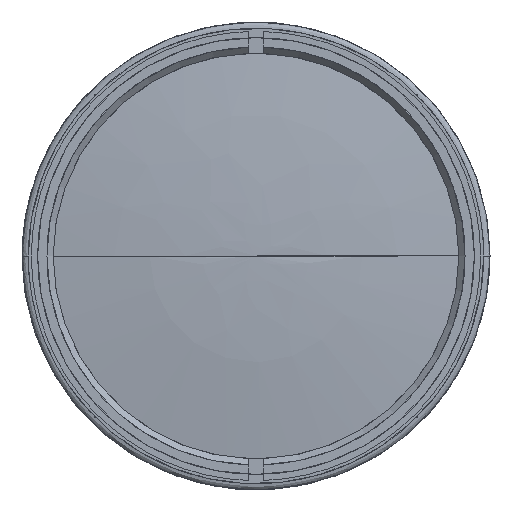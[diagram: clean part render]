
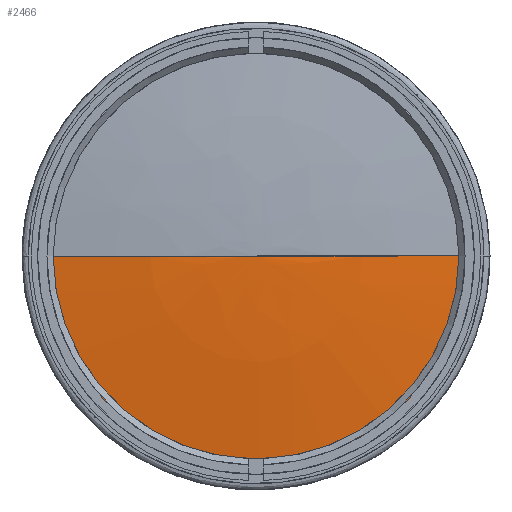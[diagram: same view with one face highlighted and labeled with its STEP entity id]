
A CAD part, left-side view. The second image highlights one B-rep face of the part: STEP entity #2466.
In plain terms, the highlighted face is a revolution surface.
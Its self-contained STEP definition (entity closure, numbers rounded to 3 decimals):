
#2466 = ADVANCED_FACE('',(#2467),#2485,.T.);
#2467 = FACE_BOUND('',#2468,.T.);
#2468 = EDGE_LOOP('',(#2469,#2499,#2518,#2537));
#2469 = ORIENTED_EDGE('',*,*,#2470,.F.);
#2470 = EDGE_CURVE('',#2471,#2473,#2475,.T.);
#2471 = VERTEX_POINT('',#2472);
#2472 = CARTESIAN_POINT('',(-141.213,0.,
    0.));
#2473 = VERTEX_POINT('',#2474);
#2474 = CARTESIAN_POINT('',(-138.909,34.,
    0.));
#2475 = SURFACE_CURVE('',#2476,(#2484),.PCURVE_S1.);
#2476 = ( BOUNDED_CURVE() B_SPLINE_CURVE(6,(#2477,#2478,#2479,#2480,
#2481,#2482,#2483),.UNSPECIFIED.,.F.,.F.) B_SPLINE_CURVE_WITH_KNOTS((7,7
),(0.,1.),.PIECEWISE_BEZIER_KNOTS.) CURVE() 
GEOMETRIC_REPRESENTATION_ITEM() RATIONAL_B_SPLINE_CURVE((1.,
    1.,1.,1.,1.,
1.,1.)) REPRESENTATION_ITEM('') );
#2477 = CARTESIAN_POINT('',(-141.213,0.,
    0.));
#2478 = CARTESIAN_POINT('',(-141.213,5.685,
    0.));
#2479 = CARTESIAN_POINT('',(-141.059,11.369,
    0.));
#2480 = CARTESIAN_POINT('',(-140.751,17.047,
    0.));
#2481 = CARTESIAN_POINT('',(-140.29,22.714,
    0.));
#2482 = CARTESIAN_POINT('',(-139.676,28.367,
    0.));
#2483 = CARTESIAN_POINT('',(-138.909,34.,
    0.));
#2484 = PCURVE('',#2485,#2494);
#2485 = SURFACE_OF_REVOLUTION('',#2486,#2491);
#2486 = CIRCLE('',#2487,252.);
#2487 = AXIS2_PLACEMENT_3D('',#2488,#2489,#2490);
#2488 = CARTESIAN_POINT('',(110.787,0.,0.));
#2489 = DIRECTION('',(-0.,0.,1.));
#2490 = DIRECTION('',(1.,0.,0.));
#2491 = AXIS1_PLACEMENT('',#2492,#2493);
#2492 = CARTESIAN_POINT('',(110.787,0.,0.));
#2493 = DIRECTION('',(1.,0.,0.));
#2494 = DEFINITIONAL_REPRESENTATION('',(#2495),#2498);
#2495 = B_SPLINE_CURVE_WITH_KNOTS('',1,(#2496,#2497),.UNSPECIFIED.,.F.,
  .F.,(2,2),(0.,1.),.PIECEWISE_BEZIER_KNOTS.);
#2496 = CARTESIAN_POINT('',(6.283,3.142));
#2497 = CARTESIAN_POINT('',(6.283,3.006));
#2498 = ( GEOMETRIC_REPRESENTATION_CONTEXT(2) 
PARAMETRIC_REPRESENTATION_CONTEXT() REPRESENTATION_CONTEXT('',''
  ) );
#2499 = ORIENTED_EDGE('',*,*,#2500,.F.);
#2500 = EDGE_CURVE('',#2501,#2471,#2503,.T.);
#2501 = VERTEX_POINT('',#2502);
#2502 = CARTESIAN_POINT('',(-141.213,0.,
    0.));
#2503 = SURFACE_CURVE('',#2504,(#2512),.PCURVE_S1.);
#2504 = ( BOUNDED_CURVE() B_SPLINE_CURVE(6,(#2505,#2506,#2507,#2508,
#2509,#2510,#2511),.UNSPECIFIED.,.F.,.F.) B_SPLINE_CURVE_WITH_KNOTS((7,7
),(0.,1.),.PIECEWISE_BEZIER_KNOTS.) CURVE() 
GEOMETRIC_REPRESENTATION_ITEM() RATIONAL_B_SPLINE_CURVE((1.133,
    1.036,0.992,0.976,0.992,
1.036,1.133)) REPRESENTATION_ITEM('') );
#2505 = CARTESIAN_POINT('',(-141.213,0.,
    0.));
#2506 = CARTESIAN_POINT('',(-141.213,0.,
    0.));
#2507 = CARTESIAN_POINT('',(-141.213,0.,
    0.));
#2508 = CARTESIAN_POINT('',(-141.213,0.,
    0.));
#2509 = CARTESIAN_POINT('',(-141.213,0.,
    0.));
#2510 = CARTESIAN_POINT('',(-141.213,0.,
    0.));
#2511 = CARTESIAN_POINT('',(-141.213,0.,
    0.));
#2512 = PCURVE('',#2485,#2513);
#2513 = DEFINITIONAL_REPRESENTATION('',(#2514),#2517);
#2514 = B_SPLINE_CURVE_WITH_KNOTS('',1,(#2515,#2516),.UNSPECIFIED.,.F.,
  .F.,(2,2),(0.,1.),.PIECEWISE_BEZIER_KNOTS.);
#2515 = CARTESIAN_POINT('',(3.142,3.142));
#2516 = CARTESIAN_POINT('',(6.283,3.142));
#2517 = ( GEOMETRIC_REPRESENTATION_CONTEXT(2) 
PARAMETRIC_REPRESENTATION_CONTEXT() REPRESENTATION_CONTEXT('',''
  ) );
#2518 = ORIENTED_EDGE('',*,*,#2519,.F.);
#2519 = EDGE_CURVE('',#2520,#2501,#2522,.T.);
#2520 = VERTEX_POINT('',#2521);
#2521 = CARTESIAN_POINT('',(-138.909,-34.,
    0.));
#2522 = SURFACE_CURVE('',#2523,(#2531),.PCURVE_S1.);
#2523 = ( BOUNDED_CURVE() B_SPLINE_CURVE(6,(#2524,#2525,#2526,#2527,
#2528,#2529,#2530),.UNSPECIFIED.,.F.,.F.) B_SPLINE_CURVE_WITH_KNOTS((7,7
),(0.,1.),.PIECEWISE_BEZIER_KNOTS.) CURVE() 
GEOMETRIC_REPRESENTATION_ITEM() RATIONAL_B_SPLINE_CURVE((1.,
    1.,1.,1.,1.,
1.,1.)) REPRESENTATION_ITEM('') );
#2524 = CARTESIAN_POINT('',(-138.909,-34.,
    0.));
#2525 = CARTESIAN_POINT('',(-139.676,-28.367,
    0.));
#2526 = CARTESIAN_POINT('',(-140.29,-22.714,
    0.));
#2527 = CARTESIAN_POINT('',(-140.751,-17.047,
    0.));
#2528 = CARTESIAN_POINT('',(-141.059,-11.369,
    0.));
#2529 = CARTESIAN_POINT('',(-141.213,-5.685,
    0.));
#2530 = CARTESIAN_POINT('',(-141.213,0.,
    0.));
#2531 = PCURVE('',#2485,#2532);
#2532 = DEFINITIONAL_REPRESENTATION('',(#2533),#2536);
#2533 = B_SPLINE_CURVE_WITH_KNOTS('',1,(#2534,#2535),.UNSPECIFIED.,.F.,
  .F.,(2,2),(0.,1.),.PIECEWISE_BEZIER_KNOTS.);
#2534 = CARTESIAN_POINT('',(3.142,3.006));
#2535 = CARTESIAN_POINT('',(3.142,3.142));
#2536 = ( GEOMETRIC_REPRESENTATION_CONTEXT(2) 
PARAMETRIC_REPRESENTATION_CONTEXT() REPRESENTATION_CONTEXT('',''
  ) );
#2537 = ORIENTED_EDGE('',*,*,#2538,.F.);
#2538 = EDGE_CURVE('',#2473,#2520,#2539,.T.);
#2539 = SURFACE_CURVE('',#2540,(#2551),.PCURVE_S1.);
#2540 = B_SPLINE_CURVE_WITH_KNOTS('',9,(#2541,#2542,#2543,#2544,#2545,
    #2546,#2547,#2548,#2549,#2550),.UNSPECIFIED.,.F.,.F.,(10,10),(0.,1.)
  ,.PIECEWISE_BEZIER_KNOTS.);
#2541 = CARTESIAN_POINT('',(-138.909,34.,
    0.));
#2542 = CARTESIAN_POINT('',(-138.909,34.,
    -11.868));
#2543 = CARTESIAN_POINT('',(-138.909,29.339,
    -23.737));
#2544 = CARTESIAN_POINT('',(-138.909,20.018,
    -33.512));
#2545 = CARTESIAN_POINT('',(-138.909,7.132,
    -39.108));
#2546 = CARTESIAN_POINT('',(-138.909,-7.132,
    -39.108));
#2547 = CARTESIAN_POINT('',(-138.909,-20.018,
    -33.512));
#2548 = CARTESIAN_POINT('',(-138.909,-29.339,
    -23.737));
#2549 = CARTESIAN_POINT('',(-138.909,-34.,
    -11.868));
#2550 = CARTESIAN_POINT('',(-138.909,-34.,
    0.));
#2551 = PCURVE('',#2485,#2552);
#2552 = DEFINITIONAL_REPRESENTATION('',(#2553),#2556);
#2553 = B_SPLINE_CURVE_WITH_KNOTS('',1,(#2554,#2555),.UNSPECIFIED.,.F.,
  .F.,(2,2),(0.,1.),.PIECEWISE_BEZIER_KNOTS.);
#2554 = CARTESIAN_POINT('',(6.283,3.006));
#2555 = CARTESIAN_POINT('',(3.142,3.006));
#2556 = ( GEOMETRIC_REPRESENTATION_CONTEXT(2) 
PARAMETRIC_REPRESENTATION_CONTEXT() REPRESENTATION_CONTEXT('',''
  ) );
